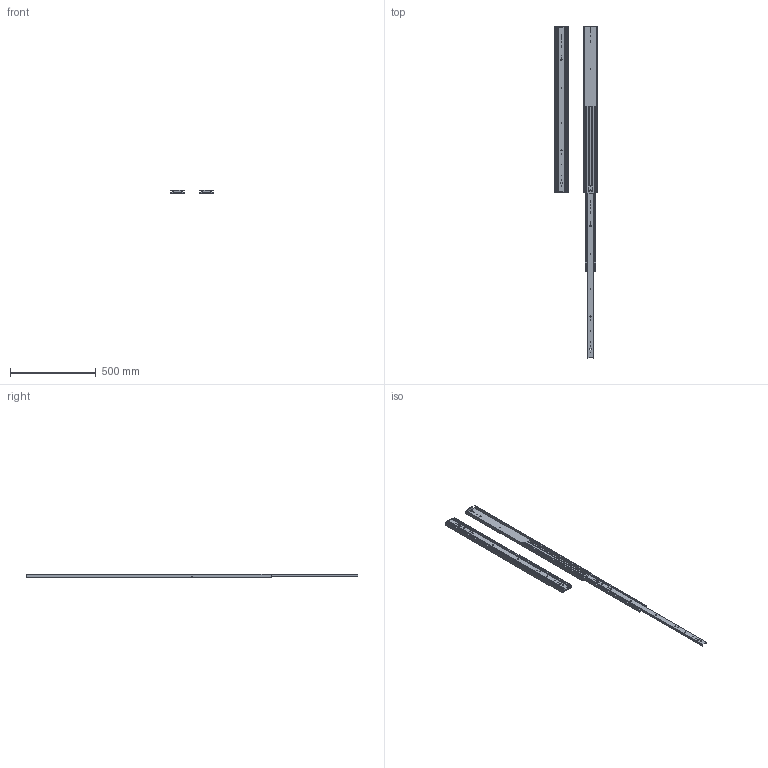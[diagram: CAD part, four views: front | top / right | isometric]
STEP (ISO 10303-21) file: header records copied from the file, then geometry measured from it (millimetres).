
FILE_DESCRIPTION((''),'2;1');
FILE_NAME('ASSEM1_1_2_3_4_5_6_7_8_9_10__15_ASM','2026-04-08T08:51:28',('T260078'),(''),'CREO PARAMETRIC BY PTC INC, 2025123','CREO PARAMETRIC BY PTC INC, 2025123','');
FILE_SCHEMA(('CONFIG_CONTROL_DESIGN','SHAPE_APPEARANCE_LAYERS_GROUPS'));
Length unit declared in the file: millimetre
Products named in the file (6): 76J01-38_X2_540B_X0_-M; 76J01-38_X2_540B_X0_-I; 76J01-38_X2_540B_X0_-O; 76J01-38_X2_540_X0__ASM; 76J01-38_X2_540B_X0_-_X2_5C5595_ASM; ASSEM1_1_2_3_4_5_6_7_8_9_10__15_ASM
Assembly tree (8 placements, depth 3):
  ASSEM1_1_2_3_4_5_6_7_8_9_10__15_ASM
    76J01-38_X2_540_X0__ASM
      76J01-38_X2_540B_X0_-M
      76J01-38_X2_540B_X0_-I
      76J01-38_X2_540B_X0_-O
    76J01-38_X2_540B_X0_-_X2_5C5595_ASM
      76J01-38_X2_540B_X0_-M
      76J01-38_X2_540B_X0_-I
      76J01-38_X2_540B_X0_-O
Bounding box: 245.44 x 1930.4 x 19.3 mm (x, y, z)
Volume: 1190337.2 mm3; surface area: 1062315.3 mm2
Topology: 6 solids, 6 shells, 408 faces, 1306 edges, 898 vertices
Faces by surface type: cylinder 208, plane 200
Entity records: 8896 total; most frequent: CARTESIAN_POINT 1352, DIRECTION 1334, ORIENTED_EDGE 1306, EDGE_CURVE 653, AXIS2_PLACEMENT_3D 466, VERTEX_POINT 449, VECTOR 402, LINE 402
